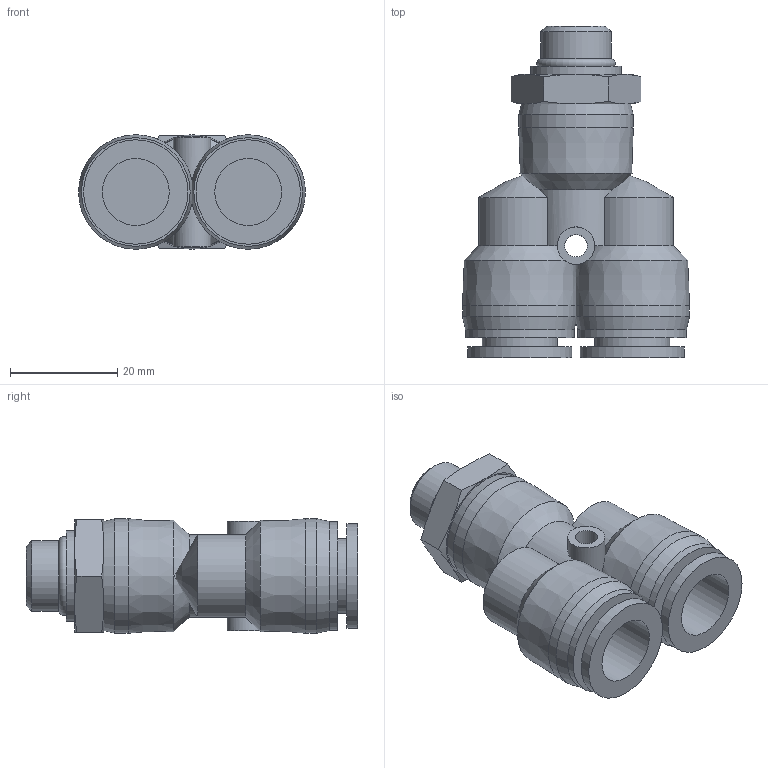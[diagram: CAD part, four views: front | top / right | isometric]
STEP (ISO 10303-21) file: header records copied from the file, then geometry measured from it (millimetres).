
FILE_DESCRIPTION(/* description */ (''),/* implementation_level */ '2;1');
FILE_NAME(/* name */ 'S:\_Tecnico\ArchivioUT\_Disegni3D ingombri\DISEGNI 3D per ingombri\RP\RP 74\RP741412.stp',/* time_stamp */ '2019-09-12T16:52:55+02:00',/* author */ ('ufficiotecnico3'),/* organization */ (''),/* preprocessor_version */ 'ST-DEVELOPER v18',/* originating_system */ 'Autodesk Inventor 2020',/* authorisation */ '');
FILE_SCHEMA (('AUTOMOTIVE_DESIGN { 1 0 10303 214 3 1 1 }'));
Length unit declared in the file: millimetre
Products named in the file (1): RP741412
Bounding box: 42.4 x 61.9 x 21.4 mm (x, y, z)
Volume: 17845.1 mm3; surface area: 11208.9 mm2
Topology: 1 solids, 2 shells, 75 faces, 194 edges, 127 vertices
Faces by surface type: plane 27, cone 24, cylinder 22, torus 2
Full cylindrical faces by diameter (mm): 4.2 x1, 7 x1, 8.5 x1, 11.2 x2, 12.5 x2, 13.157 x1, 14 x2, 17 x1, 19.5 x2, 20.3 x2, 21.4 x1
Entity records: 2556 total; most frequent: CARTESIAN_POINT 667, DIRECTION 401, ORIENTED_EDGE 388, EDGE_CURVE 194, AXIS2_PLACEMENT_3D 177, VERTEX_POINT 127, CIRCLE 101, EDGE_LOOP 89
